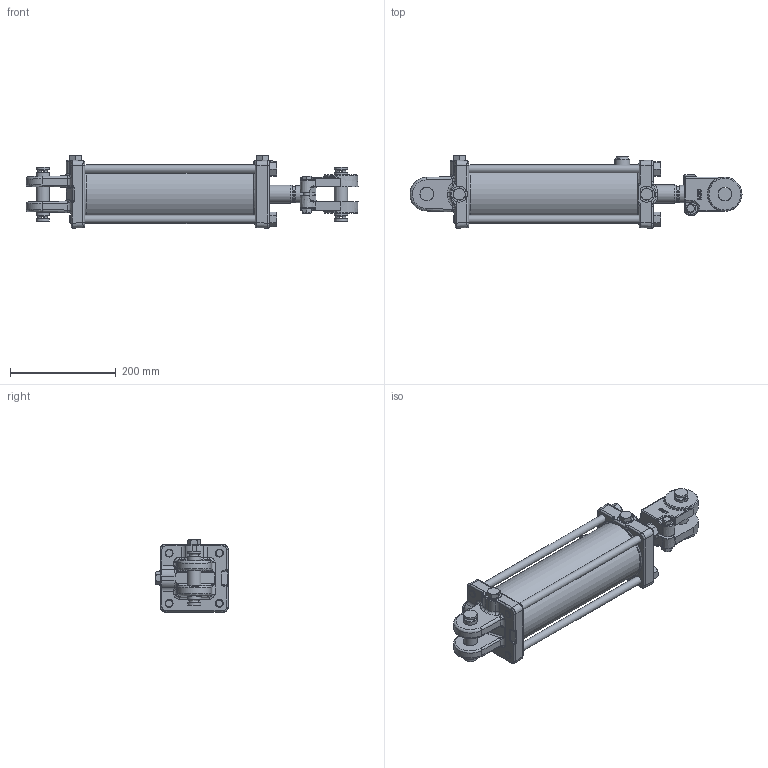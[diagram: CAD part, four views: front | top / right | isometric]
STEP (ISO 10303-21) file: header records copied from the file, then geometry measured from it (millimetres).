
FILE_DESCRIPTION((''),'2;1');
FILE_NAME('\\Srvr-eng\engsales\PMS-AM-2617A.stp','2010-12-29T15:03:20',('kneifld'),(''),'Autodesk Inventor 2010','Autodesk Inventor 2010','');
FILE_SCHEMA(('AUTOMOTIVE_DESIGN { 1 0 10303 214 1 1 1 1 }'));
Length unit declared in the file: inch
Products named in the file (28): PMS-AM-2617A; 061900724; 051900756; 200300181V; 1419005SFV; 081900374V; 081900375V; 210700077V; 010700697; 100000577V; 100000576V; 170002105; 220000223V; 071900412V; 220000210V; 240064400V; 240061240V; 240000240V; 240011105V; 240000028V; 250014137V; 240020185V; 200300104V; 200300040V; 190400004V; 170301153; 220000107V
Assembly tree (35 placements, depth 3):
  PMS-AM-2617A
    061900724
      051900756
      200300181V
    1419005SFV
    081900374V
      081900375V
      210700077V
    010700697
    100000577V
      100000576V
      170002105
      220000223V
    071900412V
    220000210V
    240064400V
    240061240V  x2
    240000240V  x2
    240011105V
    240000028V
    250014137V
    240020185V
    200300104V
    200300040V  x3
    190400004V  x2
    170301153  x4
      170301153
      220000107V
Bounding box: 629.38 x 137.01 x 137.02 mm (x, y, z)
Volume: 2956857.6 mm3; surface area: 655139.8 mm2
Topology: 34 solids, 34 shells, 1090 faces, 2441 edges, 1386 vertices
Faces by surface type: bspline 354, cylinder 280, plane 248, cone 151, sphere 31, torus 26
Full cylindrical faces by diameter (mm): 1.575 x1, 2.769 x1, 5.156 x2, 5.159 x2, 11.113 x1, 11.906 x2, 14.834 x4, 16.764 x3, 19.05 x4, 22.352 x1, 25.349 x1, 25.4 x6, 25.476 x1, 25.781 x4, 28.575 x1, 30.556 x1, 33.147 x1, 34.9 x2, 34.925 x2, 35.077 x1, 35.878 x1, 36.551 x1, 37.363 x1, 38.882 x1, 38.894 x1, 39.624 x1, 41.123 x1, 42.139 x1, 43.498 x1, 43.663 x1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
Entity records: 37542 total; most frequent: CARTESIAN_POINT 18481, ORIENTED_EDGE 3726, DIRECTION 3531, EDGE_CURVE 1863, AXIS2_PLACEMENT_3D 1518, EDGE_LOOP 1188, VERTEX_POINT 1163, FACE_OUTER_BOUND 932
